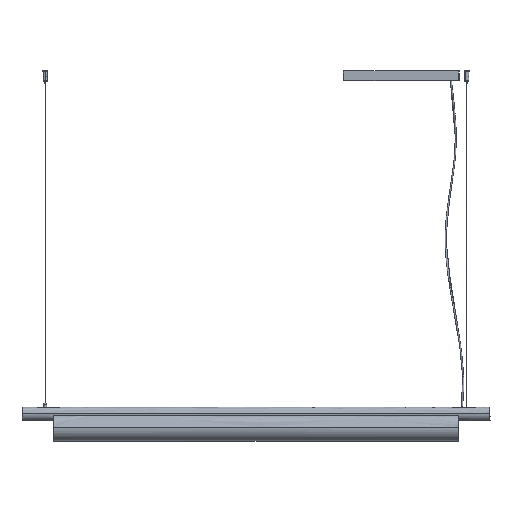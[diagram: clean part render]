
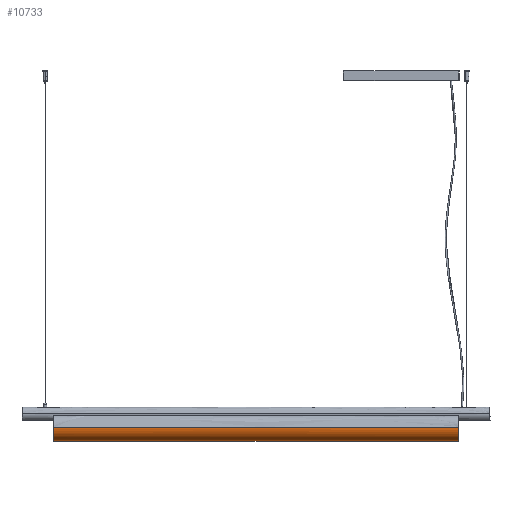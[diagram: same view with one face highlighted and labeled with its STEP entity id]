
A CAD part, front view. The second image highlights one B-rep face of the part: STEP entity #10733.
In plain terms, the highlighted free-form (B-spline) face has degree [1, 2] with [2, 9] control points.
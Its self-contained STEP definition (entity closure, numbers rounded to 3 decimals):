
#10733=ADVANCED_FACE('',(#11641),#37043,.T.);
#11641=FACE_OUTER_BOUND('',#12609,.T.);
#12609=EDGE_LOOP('',(#14293,#14294,#14295,#14296));
#14293=ORIENTED_EDGE('',*,*,#30656,.T.);
#14294=ORIENTED_EDGE('',*,*,#30657,.T.);
#14295=ORIENTED_EDGE('',*,*,#30658,.T.);
#14296=ORIENTED_EDGE('',*,*,#30659,.T.);
#17240=PCURVE('',#37043,#20187);
#17241=PCURVE('',#37043,#20188);
#17242=PCURVE('',#37043,#20189);
#17243=PCURVE('',#37043,#20190);
#20187=DEFINITIONAL_REPRESENTATION('',(#23708),#88085);
#20188=DEFINITIONAL_REPRESENTATION('',(#23710),#88085);
#20189=DEFINITIONAL_REPRESENTATION('',(#23711),#88085);
#20190=DEFINITIONAL_REPRESENTATION('',(#23713),#88085);
#23708=B_SPLINE_CURVE_WITH_KNOTS('',1,(#55018,#55019),.UNSPECIFIED.,.F.,
 .F.,(2,2),(-8.283,-5.142),.UNSPECIFIED.);
#23709=B_SPLINE_CURVE_WITH_KNOTS('',1,(#55020,#55021),.UNSPECIFIED.,.F.,
 .F.,(2,2),(-5.142,-4.142),.UNSPECIFIED.);
#23710=B_SPLINE_CURVE_WITH_KNOTS('',1,(#55022,#55023),.UNSPECIFIED.,.F.,
 .F.,(2,2),(-5.142,-4.142),.UNSPECIFIED.);
#23711=B_SPLINE_CURVE_WITH_KNOTS('',1,(#55029,#55030),.UNSPECIFIED.,.F.,
 .F.,(2,2),(-4.142,-1.),.UNSPECIFIED.);
#23712=B_SPLINE_CURVE_WITH_KNOTS('',1,(#55031,#55032),.UNSPECIFIED.,.F.,
 .F.,(2,2),(-1.,0.),.UNSPECIFIED.);
#23713=B_SPLINE_CURVE_WITH_KNOTS('',1,(#55033,#55034),.UNSPECIFIED.,.F.,
 .F.,(2,2),(-1.,0.),.UNSPECIFIED.);
#27709=SURFACE_CURVE('',#33029,(#17240),.PCURVE_S1.);
#27710=SURFACE_CURVE('',#23709,(#17241),.PCURVE_S1.);
#27711=SURFACE_CURVE('',#33030,(#17242),.PCURVE_S1.);
#27712=SURFACE_CURVE('',#23712,(#17243),.PCURVE_S1.);
#30656=EDGE_CURVE('',#34922,#34923,#27709,.T.);
#30657=EDGE_CURVE('',#34923,#34924,#27710,.T.);
#30658=EDGE_CURVE('',#34924,#34925,#27711,.T.);
#30659=EDGE_CURVE('',#34925,#34922,#27712,.T.);
#33029=(
BOUNDED_CURVE()
B_SPLINE_CURVE(2,(#55013,#55014,#55015,#55016,#55017),.UNSPECIFIED.,.F.,
 .F.)
B_SPLINE_CURVE_WITH_KNOTS((3,2,3),(-8.283,-6.712,
-5.142),.UNSPECIFIED.)
CURVE()
GEOMETRIC_REPRESENTATION_ITEM()
RATIONAL_B_SPLINE_CURVE((1.,0.707,1.,0.707,1.))
REPRESENTATION_ITEM('')
);
#33030=(
BOUNDED_CURVE()
B_SPLINE_CURVE(2,(#55024,#55025,#55026,#55027,#55028),.UNSPECIFIED.,.F.,
 .F.)
B_SPLINE_CURVE_WITH_KNOTS((3,2,3),(-4.142,-2.571,-1.),
 .UNSPECIFIED.)
CURVE()
GEOMETRIC_REPRESENTATION_ITEM()
RATIONAL_B_SPLINE_CURVE((1.,0.707,1.,0.707,1.))
REPRESENTATION_ITEM('')
);
#34922=VERTEX_POINT('',#55009);
#34923=VERTEX_POINT('',#55010);
#34924=VERTEX_POINT('',#55011);
#34925=VERTEX_POINT('',#55012);
#37043=(
BOUNDED_SURFACE()
B_SPLINE_SURFACE(1,2,((#54991,#54992,#54993,#54994,#54995,#54996,#54997,
#54998,#54999),(#55000,#55001,#55002,#55003,#55004,#55005,#55006,#55007,
#55008)),.UNSPECIFIED.,.F.,.F.,.F.)
B_SPLINE_SURFACE_WITH_KNOTS((2,2),(3,2,2,2,3),(0.,1.),(2.749,3.632,
4.516,5.4,6.283),.UNSPECIFIED.)
GEOMETRIC_REPRESENTATION_ITEM()
RATIONAL_B_SPLINE_SURFACE(((1.,0.904,1.,0.904,1.,
0.904,1.,0.904,1.),(1.,0.904,1.,0.904,
1.,0.904,1.,0.904,1.)))
REPRESENTATION_ITEM('')
SURFACE()
);
#54991=CARTESIAN_POINT('',(7.284,-0.481,-10.589));
#54992=CARTESIAN_POINT('',(7.284,-0.407,-10.767));
#54993=CARTESIAN_POINT('',(7.284,-0.498,-10.937));
#54994=CARTESIAN_POINT('',(7.284,-0.589,-11.107));
#54995=CARTESIAN_POINT('',(7.284,-0.779,-11.145));
#54996=CARTESIAN_POINT('',(7.284,-0.968,-11.183));
#54997=CARTESIAN_POINT('',(7.284,-1.117,-11.06));
#54998=CARTESIAN_POINT('',(7.284,-1.266,-10.938));
#54999=CARTESIAN_POINT('',(7.284,-1.266,-10.745));
#55000=CARTESIAN_POINT('',(-4.916,-0.481,-10.589));
#55001=CARTESIAN_POINT('',(-4.916,-0.407,-10.767));
#55002=CARTESIAN_POINT('',(-4.916,-0.498,-10.937));
#55003=CARTESIAN_POINT('',(-4.916,-0.589,-11.107));
#55004=CARTESIAN_POINT('',(-4.916,-0.779,-11.145));
#55005=CARTESIAN_POINT('',(-4.916,-0.968,-11.183));
#55006=CARTESIAN_POINT('',(-4.916,-1.117,-11.06));
#55007=CARTESIAN_POINT('',(-4.916,-1.266,-10.938));
#55008=CARTESIAN_POINT('',(-4.916,-1.266,-10.745));
#55009=CARTESIAN_POINT('',(-4.916,-0.45,-10.745));
#55010=CARTESIAN_POINT('',(-4.916,-1.266,-10.745));
#55011=CARTESIAN_POINT('',(7.284,-1.266,-10.745));
#55012=CARTESIAN_POINT('',(7.284,-0.45,-10.745));
#55013=CARTESIAN_POINT('',(-4.916,-0.45,-10.745));
#55014=CARTESIAN_POINT('',(-4.916,-0.45,-11.153));
#55015=CARTESIAN_POINT('',(-4.916,-0.858,-11.153));
#55016=CARTESIAN_POINT('',(-4.916,-1.266,-11.153));
#55017=CARTESIAN_POINT('',(-4.916,-1.266,-10.745));
#55018=CARTESIAN_POINT('',(1.,3.142));
#55019=CARTESIAN_POINT('',(1.,6.283));
#55020=CARTESIAN_POINT('',(-4.916,-1.266,-10.745));
#55021=CARTESIAN_POINT('',(7.284,-1.266,-10.745));
#55022=CARTESIAN_POINT('',(1.,6.283));
#55023=CARTESIAN_POINT('',(0.,6.283));
#55024=CARTESIAN_POINT('',(7.284,-1.266,-10.745));
#55025=CARTESIAN_POINT('',(7.284,-1.266,-11.153));
#55026=CARTESIAN_POINT('',(7.284,-0.858,-11.153));
#55027=CARTESIAN_POINT('',(7.284,-0.45,-11.153));
#55028=CARTESIAN_POINT('',(7.284,-0.45,-10.745));
#55029=CARTESIAN_POINT('',(0.,6.283));
#55030=CARTESIAN_POINT('',(0.,3.142));
#55031=CARTESIAN_POINT('',(7.284,-0.45,-10.745));
#55032=CARTESIAN_POINT('',(-4.916,-0.45,-10.745));
#55033=CARTESIAN_POINT('',(0.,3.142));
#55034=CARTESIAN_POINT('',(1.,3.142));
#88085=(
GEOMETRIC_REPRESENTATION_CONTEXT(2)
PARAMETRIC_REPRESENTATION_CONTEXT()
REPRESENTATION_CONTEXT('pspace','')
);
